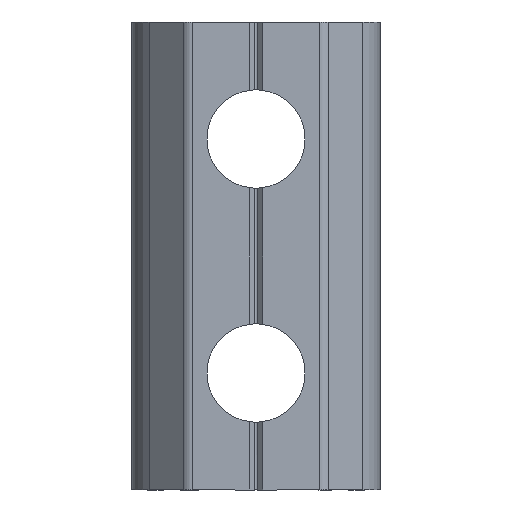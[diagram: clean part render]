
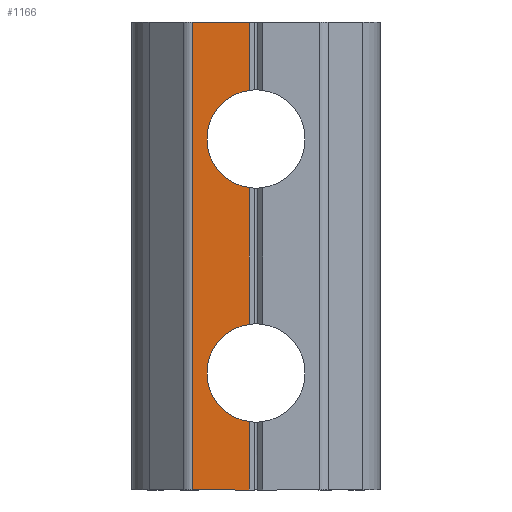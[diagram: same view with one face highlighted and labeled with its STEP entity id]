
A CAD part, front view. The second image highlights one B-rep face of the part: STEP entity #1166.
In plain terms, the highlighted planar face has unit normal (0, -1, 0).
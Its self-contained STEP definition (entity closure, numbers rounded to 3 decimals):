
#167 = VERTEX_POINT ( 'NONE', #865 ) ;
#176 = EDGE_CURVE ( 'NONE', #589, #1258, #314, .T. ) ;
#216 = VECTOR ( 'NONE', #1790, 1000. ) ;
#276 = DIRECTION ( 'NONE',  ( 0., 0., 1. ) ) ;
#299 = DIRECTION ( 'NONE',  ( 0., 0., -1. ) ) ;
#314 = LINE ( 'NONE', #1493, #791 ) ;
#385 = EDGE_LOOP ( 'NONE', ( #643, #1795, #1146, #676, #1049, #737, #521, #1527 ) ) ;
#428 = DIRECTION ( 'NONE',  ( -1., 0., 0. ) ) ;
#434 = CARTESIAN_POINT ( 'NONE',  ( 2.936, 0., 10. ) ) ;
#446 = VECTOR ( 'NONE', #276, 1000. ) ;
#467 = CARTESIAN_POINT ( 'NONE',  ( -0.291, 0., -10. ) ) ;
#473 = CARTESIAN_POINT ( 'NONE',  ( -0.291, 0., -10. ) ) ;
#520 = EDGE_CURVE ( 'NONE', #167, #1722, #1111, .T. ) ;
#521 = ORIENTED_EDGE ( 'NONE', *, *, #1260, .F. ) ;
#542 = CARTESIAN_POINT ( 'NONE',  ( 0., 0., 5. ) ) ;
#589 = VERTEX_POINT ( 'NONE', #1275 ) ;
#598 = FACE_OUTER_BOUND ( 'NONE', #385, .T. ) ;
#632 = VERTEX_POINT ( 'NONE', #649 ) ;
#643 = ORIENTED_EDGE ( 'NONE', *, *, #1479, .T. ) ;
#649 = CARTESIAN_POINT ( 'NONE',  ( -0.291, 0., 2.92 ) ) ;
#675 = LINE ( 'NONE', #787, #1831 ) ;
#676 = ORIENTED_EDGE ( 'NONE', *, *, #937, .T. ) ;
#737 = ORIENTED_EDGE ( 'NONE', *, *, #1672, .T. ) ;
#787 = CARTESIAN_POINT ( 'NONE',  ( -0.291, 0., -10. ) ) ;
#791 = VECTOR ( 'NONE', #1430, 1000. ) ;
#829 = LINE ( 'NONE', #1526, #446 ) ;
#865 = CARTESIAN_POINT ( 'NONE',  ( -0.291, 0., -2.92 ) ) ;
#921 = DIRECTION ( 'NONE',  ( 0., 0., 1. ) ) ;
#937 = EDGE_CURVE ( 'NONE', #1621, #1722, #829, .T. ) ;
#962 = CARTESIAN_POINT ( 'NONE',  ( 0., 0., -5. ) ) ;
#986 = CARTESIAN_POINT ( 'NONE',  ( -0.291, 0., 7.08 ) ) ;
#995 = DIRECTION ( 'NONE',  ( 0., -1., 0. ) ) ;
#1049 = ORIENTED_EDGE ( 'NONE', *, *, #520, .F. ) ;
#1071 = EDGE_CURVE ( 'NONE', #1621, #1258, #1810, .T. ) ;
#1085 = CARTESIAN_POINT ( 'NONE',  ( -0.291, 0., 10. ) ) ;
#1093 = CARTESIAN_POINT ( 'NONE',  ( -0.291, 0., -7.08 ) ) ;
#1104 = LINE ( 'NONE', #434, #1458 ) ;
#1111 = CIRCLE ( 'NONE', #1236, 2.1 ) ;
#1146 = ORIENTED_EDGE ( 'NONE', *, *, #1071, .F. ) ;
#1166 = ADVANCED_FACE ( 'NONE', ( #598 ), #1888, .T. ) ;
#1185 = DIRECTION ( 'NONE',  ( 0., -1., 0. ) ) ;
#1196 = DIRECTION ( 'NONE',  ( 0., -1., 0. ) ) ;
#1220 = AXIS2_PLACEMENT_3D ( 'NONE', #1615, #1185, #1329 ) ;
#1221 = VECTOR ( 'NONE', #921, 1000. ) ;
#1236 = AXIS2_PLACEMENT_3D ( 'NONE', #962, #1196, #299 ) ;
#1258 = VERTEX_POINT ( 'NONE', #1706 ) ;
#1260 = EDGE_CURVE ( 'NONE', #1832, #632, #1914, .T. ) ;
#1275 = CARTESIAN_POINT ( 'NONE',  ( -2.728, 0., 10. ) ) ;
#1329 = DIRECTION ( 'NONE',  ( 1., 0., 0. ) ) ;
#1418 = VERTEX_POINT ( 'NONE', #1085 ) ;
#1430 = DIRECTION ( 'NONE',  ( 0., 0., -1. ) ) ;
#1458 = VECTOR ( 'NONE', #428, 1000. ) ;
#1479 = EDGE_CURVE ( 'NONE', #1418, #589, #1104, .T. ) ;
#1493 = CARTESIAN_POINT ( 'NONE',  ( -2.728, 0., 10. ) ) ;
#1526 = CARTESIAN_POINT ( 'NONE',  ( -0.291, 0., -10. ) ) ;
#1527 = ORIENTED_EDGE ( 'NONE', *, *, #1820, .T. ) ;
#1546 = CARTESIAN_POINT ( 'NONE',  ( 2.936, 0., -10. ) ) ;
#1590 = DIRECTION ( 'NONE',  ( 0., 0., 1. ) ) ;
#1615 = CARTESIAN_POINT ( 'NONE',  ( 2.936, 0., 10. ) ) ;
#1619 = LINE ( 'NONE', #473, #1221 ) ;
#1621 = VERTEX_POINT ( 'NONE', #467 ) ;
#1672 = EDGE_CURVE ( 'NONE', #167, #632, #1619, .T. ) ;
#1706 = CARTESIAN_POINT ( 'NONE',  ( -2.728, 0., -10. ) ) ;
#1719 = AXIS2_PLACEMENT_3D ( 'NONE', #542, #995, #1857 ) ;
#1722 = VERTEX_POINT ( 'NONE', #1093 ) ;
#1790 = DIRECTION ( 'NONE',  ( -1., 0., 0. ) ) ;
#1795 = ORIENTED_EDGE ( 'NONE', *, *, #176, .T. ) ;
#1810 = LINE ( 'NONE', #1546, #216 ) ;
#1820 = EDGE_CURVE ( 'NONE', #1832, #1418, #675, .T. ) ;
#1831 = VECTOR ( 'NONE', #1590, 1000. ) ;
#1832 = VERTEX_POINT ( 'NONE', #986 ) ;
#1857 = DIRECTION ( 'NONE',  ( 0., 0., -1. ) ) ;
#1888 = PLANE ( 'NONE',  #1220 ) ;
#1914 = CIRCLE ( 'NONE', #1719, 2.1 ) ;
